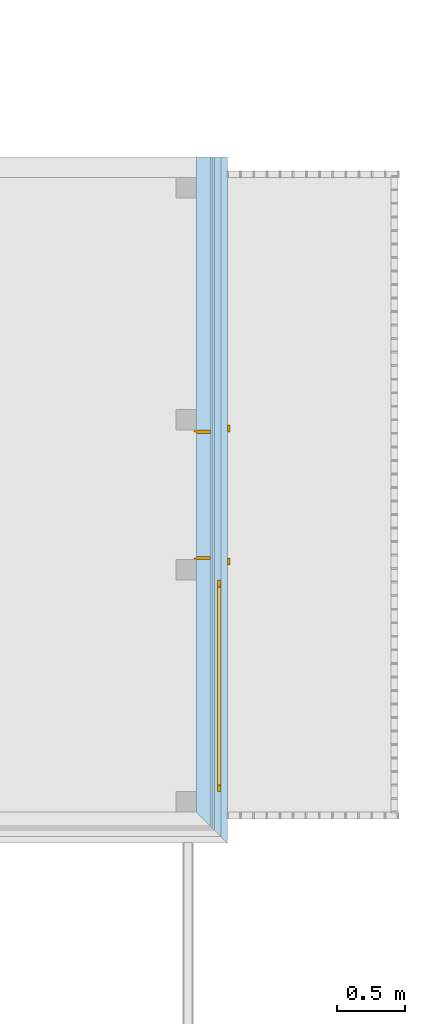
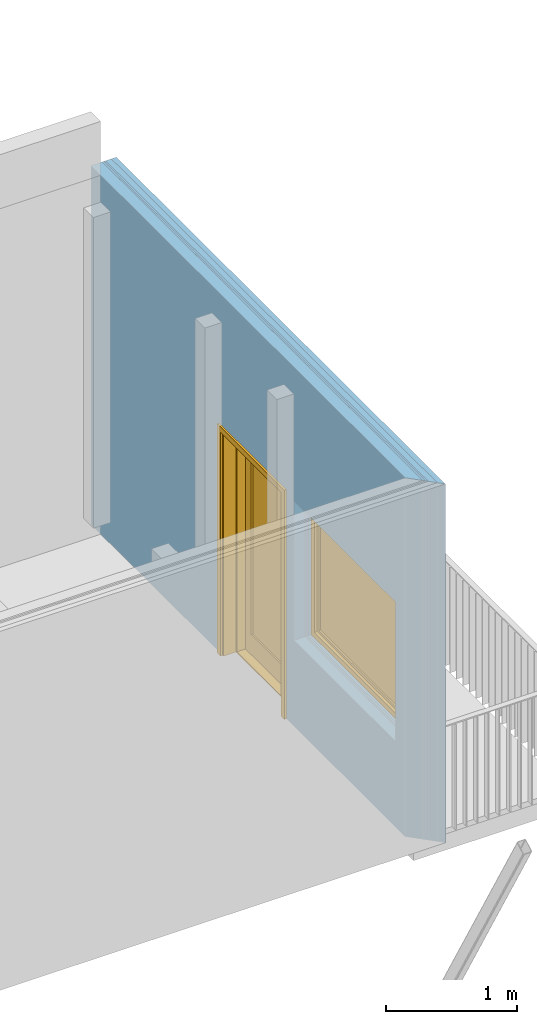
# One storey, part 59 of 100: 1 door, 1 window, 2 openings, 1 element without a shape of its own, plus 5 elements that do not belong to this part.
"""IFC2X3 building model written with IfcOpenShell, lengths in millimetres."""

from ifc_helpers import new_model, entity, si_unit, converted_unit, derived_unit, money_unit, direction, frame, origin_with_axes, origin_2d_with_axis, place, context, subcontext, project, spatial, polyline, rectangle, outline, extrude, open_shell, faceted_brep, surface_model, material, type_object, element, fill, aggregate, save


model = new_model("IFC2X3")

# Units and contexts
model_context = context("Model", 3, precision=0.01, world=origin_with_axes(), true_north=direction((0.0, 1.0)))
body_context = subcontext(model_context, "Body", "Model", "MODEL_VIEW")
ifc_project = project(units=[si_unit("LENGTHUNIT", "METRE", prefix="MILLI"), si_unit("AREAUNIT", "SQUARE_METRE"), si_unit("VOLUMEUNIT", "CUBIC_METRE"), converted_unit("PLANEANGLEUNIT", "DEGREE", entity("IfcPlaneAngleMeasure", 0.0174532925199), si_unit("PLANEANGLEUNIT", "RADIAN"), dimensions=[0, 0, 0, 0, 0, 0, 0]), si_unit("SOLIDANGLEUNIT", "STERADIAN"), money_unit("EUR"), converted_unit("TIMEUNIT", "Year", entity("IfcTimeMeasure", 31556926.0), si_unit("TIMEUNIT", "SECOND"), dimensions=[0, 0, 1, 0, 0, 0, 0]), si_unit("MASSUNIT", "GRAM", prefix="KILO"), si_unit("THERMODYNAMICTEMPERATUREUNIT", "DEGREE_CELSIUS"), si_unit("LUMINOUSINTENSITYUNIT", "LUMEN"), si_unit("ENERGYUNIT", "JOULE", prefix="MEGA"), derived_unit("THERMALCONDUCTANCEUNIT", [(si_unit("POWERUNIT", "WATT"), 1), (si_unit("LENGTHUNIT", "METRE"), -1), (si_unit("THERMODYNAMICTEMPERATUREUNIT", "KELVIN"), -1)]), derived_unit("SPECIFICHEATCAPACITYUNIT", [(si_unit("ENERGYUNIT", "JOULE"), 1), (si_unit("MASSUNIT", "GRAM", prefix="KILO"), -1), (si_unit("THERMODYNAMICTEMPERATUREUNIT", "KELVIN"), -1)]), derived_unit("MASSDENSITYUNIT", [(si_unit("MASSUNIT", "GRAM", prefix="KILO"), 1), (si_unit("VOLUMEUNIT", "CUBIC_METRE"), -1)])], contexts=[model_context])

# Site, building, storey
site_placement = place(None, origin_with_axes())
site = spatial("IfcSite", under=ifc_project, at=site_placement, Name="Politse- ja Piirivalveameti ning Päästeameti ühishoone", CompositionType="ELEMENT")
building_placement = place(site_placement, origin_with_axes())
building = spatial("IfcBuilding", under=site, at=building_placement, Name="Politse- ja Piirivalveameti ning Päästeameti ühishoone", CompositionType="ELEMENT")
storey_placement = place(building_placement, frame((0.0, 0.0, 3800.0), z_axis=(0.0, 0.0, 1.0), x_axis=(1.0, 0.0, 0.0)))
storey = spatial("IfcBuildingStorey", under=building, at=storey_placement, Name="Teine korrus", CompositionType="ELEMENT", Elevation=3800.0)

# Window
window_style = type_object("IfcWindowStyle", Name="Window 23", ConstructionType="NOTDEFINED", OperationType="SINGLE_PANEL", ParameterTakesPrecedence=False, Sizeable=False)
wall_placement = place(storey_placement, frame((-8532.0, -75.0, -500.0), z_axis=(0.0, 0.0, 1.0), x_axis=(0.0, 1.0, 0.0)))
opening_1_placement = place(wall_placement, frame((925.0, 0.0, 799.999993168), z_axis=(0.0, 0.0, 1.0), x_axis=(1.0, 0.0, 0.0)))
window_placement = place(opening_1_placement, frame((775.0, 0.0, 0.0), z_axis=(0.0, 0.0, 1.0), x_axis=(-1.0, 0.0, 0.0)))
window = element("IfcWindow", 1, at=window_placement, inside=storey, type_object=window_style, Name="A-21", ObjectType="WINDOW", OverallHeight=1300.0, OverallWidth=1550.0, context=body_context, shape_type="SurfaceModel", body=[
    faceted_brep([(25.0, 202.0, 1250.0), (0.0, 202.0, 1250.0), (0.0, 152.0, 1250.0), (50.0, 152.0, 1250.0), (50.0, 177.0, 1250.0), (25.0, 177.0, 1250.0), (25.0, 202.0, 50.0), (0.0, 202.0, 50.0), (0.0, 152.0, 50.0), (50.0, 152.0, 50.0), (50.0, 177.0, 50.0), (25.0, 177.0, 50.0)], [[[0, 1, 2, 3, 4, 5]], [[6, 7, 1, 0]], [[1, 7, 8, 2]], [[2, 8, 9, 3]], [[4, 3, 9, 10]], [[10, 11, 5, 4]], [[5, 11, 6, 0]], [[11, 10, 9, 8, 7, 6]]]),
    faceted_brep([(1500.0, 177.0, 1250.0), (1500.0, 152.0, 1250.0), (1550.0, 152.0, 1250.0), (1550.0, 202.0, 1250.0), (1525.0, 202.0, 1250.0), (1525.0, 177.0, 1250.0), (1500.0, 177.0, 50.0), (1500.0, 152.0, 50.0), (1550.0, 152.0, 50.0), (1550.0, 202.0, 50.0), (1525.0, 202.0, 50.0), (1525.0, 177.0, 50.0)], [[[0, 1, 2, 3, 4, 5]], [[6, 7, 1, 0]], [[8, 2, 1, 7]], [[9, 3, 2, 8]], [[4, 3, 9, 10]], [[10, 11, 5, 4]], [[5, 11, 6, 0]], [[11, 10, 9, 8, 7, 6]]]),
    faceted_brep([(1500.0, 177.0, 50.0), (1500.0, 152.0, 50.0), (1550.0, 152.0, 50.0), (1550.0, 202.0, 50.0), (1525.0, 202.0, 50.0), (1525.0, 177.0, 50.0), (50.0, 177.0, 50.0), (50.0, 152.0, 50.0), (0.0, 152.0, 50.0), (0.0, 152.0, 0.0), (1550.0, 152.0, 0.0), (1550.0, 202.0, 0.0), (25.0, 202.0, 25.0), (1525.0, 202.0, 25.0), (0.0, 202.0, 0.0), (0.0, 202.0, 50.0), (25.0, 202.0, 50.0), (1525.0, 177.0, 25.0), (25.0, 177.0, 25.0), (25.0, 177.0, 50.0)], [[[0, 1, 2, 3, 4, 5]], [[6, 7, 1, 0]], [[8, 9, 10, 2, 1, 7]], [[11, 3, 2, 10]], [[12, 13, 4, 3, 11, 14, 15, 16]], [[13, 17, 5, 4]], [[5, 17, 18, 19, 6, 0]], [[19, 16, 15, 8, 7, 6]], [[15, 14, 9, 8]], [[14, 11, 10, 9]], [[12, 18, 17, 13]], [[19, 18, 12, 16]]]),
    faceted_brep([(25.0, 202.0, 1250.0), (0.0, 202.0, 1250.0), (0.0, 202.0, 1300.0), (1550.0, 202.0, 1300.0), (1550.0, 202.0, 1250.0), (1525.0, 202.0, 1250.0), (1525.0, 202.0, 1275.0), (25.0, 202.0, 1275.0), (25.0, 177.0, 1250.0), (50.0, 177.0, 1250.0), (50.0, 152.0, 1250.0), (0.0, 152.0, 1250.0), (0.0, 152.0, 1300.0), (1550.0, 152.0, 1300.0), (1550.0, 152.0, 1250.0), (1525.0, 177.0, 1250.0), (1500.0, 152.0, 1250.0), (1500.0, 177.0, 1250.0), (1525.0, 177.0, 1275.0), (25.0, 177.0, 1275.0)], [[[0, 1, 2, 3, 4, 5, 6, 7]], [[8, 9, 10, 11, 1, 0]], [[2, 1, 11, 12]], [[3, 2, 12, 13]], [[4, 3, 13, 14]], [[15, 5, 4, 14, 16, 17]], [[5, 15, 18, 6]], [[6, 18, 19, 7]], [[7, 19, 8, 0]], [[17, 9, 8, 19, 18, 15]], [[17, 16, 10, 9]], [[14, 13, 12, 11, 10, 16]]]),
    faceted_brep([(75.0, 177.0, 1225.0), (75.0, 227.0, 1225.0), (25.0, 227.0, 1225.0), (25.0, 177.0, 1225.0), (75.0, 177.0, 75.0), (75.0, 227.0, 75.0), (25.0, 227.0, 75.0), (25.0, 177.0, 75.0)], [[[0, 1, 2, 3]], [[4, 5, 1, 0]], [[1, 5, 6, 2]], [[3, 2, 6, 7]], [[0, 3, 7, 4]], [[7, 6, 5, 4]]]),
    faceted_brep([(1475.0, 177.0, 75.0), (1475.0, 227.0, 75.0), (1525.0, 227.0, 75.0), (1525.0, 177.0, 75.0), (1475.0, 177.0, 1225.0), (1475.0, 227.0, 1225.0), (1525.0, 227.0, 1225.0), (1525.0, 177.0, 1225.0)], [[[0, 1, 2, 3]], [[4, 5, 1, 0]], [[1, 5, 6, 2]], [[3, 2, 6, 7]], [[0, 3, 7, 4]], [[7, 6, 5, 4]]]),
    faceted_brep([(1525.0, 177.0, 25.0), (1525.0, 227.0, 25.0), (1525.0, 227.0, 75.0), (1525.0, 177.0, 75.0), (25.0, 177.0, 25.0), (25.0, 227.0, 25.0), (25.0, 227.0, 75.0), (75.0, 227.0, 75.0), (1475.0, 227.0, 75.0), (1475.0, 177.0, 75.0), (75.0, 177.0, 75.0), (25.0, 177.0, 75.0)], [[[0, 1, 2, 3]], [[4, 5, 1, 0]], [[1, 5, 6, 7, 8, 2]], [[3, 2, 8, 9]], [[0, 3, 9, 10, 11, 4]], [[11, 6, 5, 4]], [[10, 7, 6, 11]], [[9, 8, 7, 10]]]),
    faceted_brep([(25.0, 177.0, 1275.0), (25.0, 227.0, 1275.0), (25.0, 227.0, 1225.0), (25.0, 177.0, 1225.0), (1525.0, 177.0, 1275.0), (1525.0, 227.0, 1275.0), (1525.0, 227.0, 1225.0), (1475.0, 227.0, 1225.0), (75.0, 227.0, 1225.0), (75.0, 177.0, 1225.0), (1475.0, 177.0, 1225.0), (1525.0, 177.0, 1225.0)], [[[0, 1, 2, 3]], [[4, 5, 1, 0]], [[1, 5, 6, 7, 8, 2]], [[3, 2, 8, 9]], [[0, 3, 9, 10, 11, 4]], [[11, 6, 5, 4]], [[10, 7, 6, 11]], [[9, 8, 7, 10]]]),
    surface_model("IfcShellBasedSurfaceModel", [(75.0, 192.0, 75.0), (1475.0, 192.0, 75.0), (1475.0, 192.0, 1225.0), (75.0, 192.0, 1225.0)], [open_shell([[[0, 1, 2, 3]]])]),
    surface_model("IfcShellBasedSurfaceModel", [(75.0, 212.0, 75.0), (75.0, 212.0, 1225.0), (1475.0, 212.0, 1225.0), (1475.0, 212.0, 75.0)], [open_shell([[[0, 1, 2, 3]]])]),
])

# Door
door_style = type_object("IfcDoorStyle", Name="Door 23", ConstructionType="NOTDEFINED", OperationType="SINGLE_SWING_LEFT", ParameterTakesPrecedence=False, Sizeable=False)
opening_2_placement = place(wall_placement, frame((2325.11493577, 0.0, 0.0), z_axis=(0.0, 0.0, 1.0), x_axis=(1.0, 0.0, 0.0)))
door_placement = place(opening_2_placement, frame((475.0, 0.0, 0.0), z_axis=(0.0, 0.0, 1.0), x_axis=(-1.0, 0.0, 0.0)))
door = element("IfcDoor", 2, at=door_placement, inside=storey, type_object=door_style, Name="VU-22", ObjectType="DOOR", OverallHeight=2100.0, OverallWidth=950.0, context=body_context, shape_type="SurfaceModel", body=[
    faceted_brep([(28.0, 185.0, 0.0), (40.0, 185.0, 0.0), (40.0, 185.0, 12.0), (28.0, 185.0, 12.0), (922.0, 185.0, 0.0), (910.0, 185.0, 0.0), (910.0, 110.0, 0.0), (40.0, 110.0, 0.0), (40.0, 110.0, 12.0), (910.0, 110.0, 12.0), (910.0, 185.0, 12.0), (922.0, 185.0, 12.0)], [[[0, 1, 2, 3]], [[0, 4, 5, 6, 7, 1]], [[1, 7, 8, 2]], [[3, 2, 8, 9, 10, 11]], [[4, 0, 3, 11]], [[5, 4, 11, 10]], [[6, 5, 10, 9]], [[7, 6, 9, 8]]]),
    faceted_brep([(950.0, 110.0, 0.0), (950.0, 0.0, 0.0), (925.0, 0.0, 0.0), (925.0, 110.0, 0.0), (950.0, 110.0, 2100.0), (950.0, 0.0, 2100.0), (925.0, 0.0, 2075.0), (925.0, 110.0, 2075.0)], [[[0, 1, 2, 3]], [[4, 5, 1, 0]], [[1, 5, 6, 2]], [[3, 2, 6, 7]], [[0, 3, 7, 4]], [[7, 6, 5, 4]]]),
    faceted_brep([(0.0, 110.0, 2100.0), (0.0, 0.0, 2100.0), (25.0, 0.0, 2075.0), (25.0, 110.0, 2075.0), (0.0, 110.0, 0.0), (0.0, 0.0, 0.0), (25.0, 0.0, 0.0), (25.0, 110.0, 0.0)], [[[0, 1, 2, 3]], [[4, 5, 1, 0]], [[1, 5, 6, 2]], [[3, 2, 6, 7]], [[0, 3, 7, 4]], [[7, 6, 5, 4]]]),
    faceted_brep([(925.0, 110.0, 2075.0), (925.0, 0.0, 2075.0), (25.0, 0.0, 2075.0), (25.0, 110.0, 2075.0), (950.0, 110.0, 2100.0), (950.0, 0.0, 2100.0), (0.0, 0.0, 2100.0), (0.0, 110.0, 2100.0)], [[[0, 1, 2, 3]], [[4, 5, 1, 0]], [[1, 5, 6, 2]], [[3, 2, 6, 7]], [[0, 3, 7, 4]], [[7, 6, 5, 4]]]),
    faceted_brep([(987.0, -19.0, 0.0), (937.0, -19.0, 0.0), (937.0, 0.0, 0.0), (987.0, 0.0, 0.0), (987.0, -19.0, 2137.0), (937.0, -19.0, 2087.0), (937.0, 0.0, 2087.0), (987.0, 0.0, 2137.0)], [[[0, 1, 2, 3]], [[0, 4, 5, 1]], [[1, 5, 6, 2]], [[3, 2, 6, 7]], [[4, 0, 3, 7]], [[5, 4, 7, 6]]]),
    faceted_brep([(-37.0, -19.0, 2137.0), (13.0, -19.0, 2087.0), (13.0, 0.0, 2087.0), (-37.0, 0.0, 2137.0), (-37.0, -19.0, 0.0), (13.0, -19.0, 0.0), (13.0, 0.0, 0.0), (-37.0, 0.0, 0.0)], [[[0, 1, 2, 3]], [[0, 4, 5, 1]], [[1, 5, 6, 2]], [[3, 2, 6, 7]], [[4, 0, 3, 7]], [[5, 4, 7, 6]]]),
    faceted_brep([(987.0, -19.0, 2137.0), (937.0, -19.0, 2087.0), (937.0, 0.0, 2087.0), (987.0, 0.0, 2137.0), (-37.0, -19.0, 2137.0), (13.0, -19.0, 2087.0), (13.0, 0.0, 2087.0), (-37.0, 0.0, 2137.0)], [[[0, 1, 2, 3]], [[0, 4, 5, 1]], [[1, 5, 6, 2]], [[3, 2, 6, 7]], [[4, 0, 3, 7]], [[5, 4, 7, 6]]]),
    faceted_brep([(987.0, 244.0, 0.0), (987.0, 225.0, 0.0), (937.0, 225.0, 0.0), (937.0, 244.0, 0.0), (987.0, 244.0, 2137.0), (987.0, 225.0, 2137.0), (937.0, 225.0, 2087.0), (937.0, 244.0, 2087.0)], [[[0, 1, 2, 3]], [[4, 5, 1, 0]], [[1, 5, 6, 2]], [[3, 2, 6, 7]], [[0, 3, 7, 4]], [[7, 6, 5, 4]]]),
    faceted_brep([(-37.0, 244.0, 2137.0), (-37.0, 225.0, 2137.0), (13.0, 225.0, 2087.0), (13.0, 244.0, 2087.0), (-37.0, 244.0, 0.0), (-37.0, 225.0, 0.0), (13.0, 225.0, 0.0), (13.0, 244.0, 0.0)], [[[0, 1, 2, 3]], [[4, 5, 1, 0]], [[1, 5, 6, 2]], [[3, 2, 6, 7]], [[0, 3, 7, 4]], [[7, 6, 5, 4]]]),
    faceted_brep([(987.0, 244.0, 2137.0), (987.0, 225.0, 2137.0), (937.0, 225.0, 2087.0), (937.0, 244.0, 2087.0), (-37.0, 244.0, 2137.0), (-37.0, 225.0, 2137.0), (13.0, 225.0, 2087.0), (13.0, 244.0, 2087.0)], [[[0, 1, 2, 3]], [[4, 5, 1, 0]], [[1, 5, 6, 2]], [[3, 2, 6, 7]], [[0, 3, 7, 4]], [[7, 6, 5, 4]]]),
    faceted_brep([(910.0, 185.0, 0.0), (910.0, 110.0, 0.0), (910.0, 110.0, 2060.0), (910.0, 185.0, 2060.0), (922.0, 185.0, 0.0), (922.0, 225.0, 0.0), (950.0, 225.0, 0.0), (950.0, 110.0, 0.0), (950.0, 110.0, 2060.0), (922.0, 185.0, 2060.0), (950.0, 225.0, 2060.0), (922.0, 225.0, 2060.0)], [[[0, 1, 2, 3]], [[4, 5, 6, 7, 1, 0]], [[1, 7, 8, 2]], [[9, 3, 2, 8, 10, 11]], [[9, 4, 0, 3]], [[11, 5, 4, 9]], [[11, 10, 6, 5]], [[6, 10, 8, 7]]]),
    faceted_brep([(28.0, 185.0, 2060.0), (28.0, 225.0, 2060.0), (0.0, 225.0, 2060.0), (0.0, 110.0, 2060.0), (40.0, 110.0, 2060.0), (40.0, 185.0, 2060.0), (28.0, 185.0, 0.0), (28.0, 225.0, 0.0), (0.0, 225.0, 0.0), (0.0, 110.0, 0.0), (40.0, 110.0, 0.0), (40.0, 185.0, 0.0)], [[[0, 1, 2, 3, 4, 5]], [[0, 6, 7, 1]], [[7, 8, 2, 1]], [[2, 8, 9, 3]], [[3, 9, 10, 4]], [[5, 4, 10, 11]], [[5, 11, 6, 0]], [[6, 11, 10, 9, 8, 7]]]),
    faceted_brep([(922.0, 225.0, 2072.0), (28.0, 225.0, 2072.0), (28.0, 225.0, 2060.0), (0.0, 225.0, 2060.0), (0.0, 225.0, 2100.0), (950.0, 225.0, 2100.0), (950.0, 225.0, 2060.0), (922.0, 225.0, 2060.0), (922.0, 185.0, 2072.0), (28.0, 185.0, 2072.0), (28.0, 185.0, 2060.0), (40.0, 185.0, 2060.0), (40.0, 110.0, 2060.0), (0.0, 110.0, 2060.0), (0.0, 110.0, 2100.0), (950.0, 110.0, 2100.0), (950.0, 110.0, 2060.0), (922.0, 185.0, 2060.0), (910.0, 110.0, 2060.0), (910.0, 185.0, 2060.0)], [[[0, 1, 2, 3, 4, 5, 6, 7]], [[0, 8, 9, 1]], [[1, 9, 10, 2]], [[10, 11, 12, 13, 3, 2]], [[4, 3, 13, 14]], [[5, 4, 14, 15]], [[6, 5, 15, 16]], [[17, 7, 6, 16, 18, 19]], [[7, 17, 8, 0]], [[10, 9, 8, 17, 19, 11]], [[19, 18, 12, 11]], [[12, 18, 16, 15, 14, 13]]]),
    faceted_brep([(28.0, 225.0, 200.0), (128.0, 225.0, 200.0), (128.0, 185.0, 200.0), (28.0, 185.0, 200.0), (28.0, 225.0, 1972.0), (128.0, 225.0, 1972.0), (128.0, 185.0, 1972.0), (28.0, 185.0, 1972.0)], [[[0, 1, 2, 3]], [[0, 4, 5, 1]], [[1, 5, 6, 2]], [[3, 2, 6, 7]], [[4, 0, 3, 7]], [[5, 4, 7, 6]]]),
    faceted_brep([(922.0, 225.0, 200.0), (922.0, 225.0, 1972.0), (922.0, 185.0, 1972.0), (922.0, 185.0, 200.0), (822.0, 225.0, 200.0), (822.0, 225.0, 1972.0), (822.0, 185.0, 1972.0), (822.0, 185.0, 200.0)], [[[0, 1, 2, 3]], [[0, 4, 5, 1]], [[1, 5, 6, 2]], [[3, 2, 6, 7]], [[4, 0, 3, 7]], [[5, 4, 7, 6]]]),
    faceted_brep([(28.0, 225.0, 0.0), (922.0, 225.0, 0.0), (922.0, 185.0, 0.0), (28.0, 185.0, 0.0), (28.0, 225.0, 200.0), (128.0, 225.0, 200.0), (822.0, 225.0, 200.0), (922.0, 225.0, 200.0), (922.0, 185.0, 200.0), (822.0, 185.0, 200.0), (128.0, 185.0, 200.0), (28.0, 185.0, 200.0)], [[[0, 1, 2, 3]], [[0, 4, 5, 6, 7, 1]], [[1, 7, 8, 2]], [[3, 2, 8, 9, 10, 11]], [[4, 0, 3, 11]], [[5, 4, 11, 10]], [[6, 5, 10, 9]], [[7, 6, 9, 8]]]),
    faceted_brep([(28.0, 225.0, 2072.0), (28.0, 225.0, 1972.0), (28.0, 185.0, 1972.0), (28.0, 185.0, 2072.0), (922.0, 225.0, 2072.0), (922.0, 225.0, 1972.0), (822.0, 225.0, 1972.0), (128.0, 225.0, 1972.0), (128.0, 185.0, 1972.0), (822.0, 185.0, 1972.0), (922.0, 185.0, 1972.0), (922.0, 185.0, 2072.0)], [[[0, 1, 2, 3]], [[0, 4, 5, 6, 7, 1]], [[1, 7, 8, 2]], [[3, 2, 8, 9, 10, 11]], [[4, 0, 3, 11]], [[5, 4, 11, 10]], [[6, 5, 10, 9]], [[7, 6, 9, 8]]]),
    surface_model("IfcShellBasedSurfaceModel", [(128.0, 211.0, 200.0), (128.0, 211.0, 1972.0), (822.0, 211.0, 1972.0), (822.0, 211.0, 200.0)], [open_shell([[[0, 1, 2, 3]]])]),
    surface_model("IfcShellBasedSurfaceModel", [(128.0, 199.0, 200.0), (822.0, 199.0, 200.0), (822.0, 199.0, 1972.0), (128.0, 199.0, 1972.0)], [open_shell([[[0, 1, 2, 3]]])]),
])

# Wall, opening
wall_type = type_object("IfcWallType", Name="VS-20_Välissein jarjutustorn 225", PredefinedType="NOTDEFINED")
wall = element("IfcWall", 3, at=wall_placement, inside=storey, type_object=wall_type, Name="VS-20")
opening_1 = element("IfcOpeningElement", 4, at=opening_1_placement, cuts=wall, Name="A-21", context=body_context, shape_type="SweptSolid", body=[
    extrude(rectangle(XDim=1550.0, YDim=1300.0, at=origin_2d_with_axis()), frame((0.0, -202.0, 650.0), z_axis=(0.0, -1.0, 0.0), x_axis=(-1.0, 0.0, 0.0)), (0.0, 0.0, -1.0), 427.0),
    extrude(rectangle(XDim=1550.0, YDim=1300.0, at=origin_2d_with_axis()), frame((0.0, -202.0, 650.0), z_axis=(0.0, 1.0, 0.0), x_axis=(-1.0, 0.0, 0.0)), (0.0, 0.0, -1.0), 248.0),
])

fill(opening_1, window)

# Opening
opening_2 = element("IfcOpeningElement", 5, at=opening_2_placement, cuts=wall, Name="VU-22", context=body_context, shape_type="SweptSolid", body=[
    extrude(rectangle(XDim=950.0, YDim=2100.0, at=origin_2d_with_axis()), frame((0.0, 225.0, 1050.0), z_axis=(0.0, 1.0, 0.0), x_axis=(1.0, 0.0, 0.0)), (0.0, 0.0, -1.0), 675.0),
    extrude(rectangle(XDim=1024.0, YDim=2137.0, at=origin_2d_with_axis()), frame((0.0, 0.0, 1068.5), z_axis=(0.0, 1.0, 0.0), x_axis=(1.0, 0.0, 0.0)), (0.0, 0.0, 1.0), 225.0),
    extrude(rectangle(XDim=1024.0, YDim=2137.0, at=origin_2d_with_axis()), frame((0.0, -225.0, 1068.5), z_axis=(0.0, -1.0, 0.0), x_axis=(1.0, 0.0, 0.0)), (0.0, 0.0, 1.0), 225.0),
])

fill(opening_2, door)

# Building element part
ifc_material_1 = material(Name="Õhkvahe - Raam")
building_element_part_1_placement = place(wall_placement, origin_with_axes())
building_element_part_1 = element("IfcBuildingElementPart", 6, at=building_element_part_1_placement, material=ifc_material_1, Name="Õhkvahe - Raam", context=body_context, shape_type="SweptSolid", body=[
    extrude(outline(polyline([(-100.0, -100.0), (4800.4616888, -100.0), (4800.4616888, 0.0), (0.0, 0.0), (-100.0, -100.0)])), origin_with_axes(), (0.0, 0.0, 1.0), 3347.0),
])

ifc_material_2 = material(Name="SKR-05_Vineer")
building_element_part_2_placement = place(wall_placement, origin_with_axes())
building_element_part_2 = element("IfcBuildingElementPart", 7, at=building_element_part_2_placement, material=ifc_material_2, Name="SKR-05_Vineer", context=body_context, shape_type="SweptSolid", body=[
    extrude(outline(polyline([(-115.0, -115.0), (4800.4616888, -115.0), (4800.4616888, -100.0), (-100.0, -100.0), (-115.0, -115.0)])), origin_with_axes(), (0.0, 0.0, 1.0), 3347.0),
])

ifc_material_3 = material(Name="SKR-01_Õhkvahe - Raam")
building_element_part_3_placement = place(wall_placement, origin_with_axes())
building_element_part_3 = element("IfcBuildingElementPart", 8, at=building_element_part_3_placement, material=ifc_material_3, Name="SKR-01_Õhkvahe - Raam", context=body_context, shape_type="SweptSolid", body=[
    extrude(outline(polyline([(-130.0, -130.0), (4800.4616888, -130.0), (4800.4616888, -115.0), (-115.0, -115.0), (-130.0, -130.0)])), origin_with_axes(), (0.0, 0.0, 1.0), 3347.0),
])

building_element_part_4_placement = place(wall_placement, origin_with_axes())
building_element_part_4 = element("IfcBuildingElementPart", 9, at=building_element_part_4_placement, material=ifc_material_3, Name="SKR-01_Õhkvahe - Raam", context=body_context, shape_type="SweptSolid", body=[
    extrude(outline(polyline([(-180.0, -180.0), (4800.4616888, -180.0), (4800.4616888, -130.0), (-130.0, -130.0), (-180.0, -180.0)])), origin_with_axes(), (0.0, 0.0, 1.0), 3347.0),
])

ifc_material_4 = material(Name="SKR-04_Puitplaat")
building_element_part_5_placement = place(wall_placement, origin_with_axes())
building_element_part_5 = element("IfcBuildingElementPart", 10, at=building_element_part_5_placement, material=ifc_material_4, Name="SKR-04_Puitplaat", context=body_context, shape_type="SweptSolid", body=[
    extrude(outline(polyline([(-225.0, -225.0), (4800.4616888, -225.0), (4800.4616888, -180.0), (-180.0, -180.0), (-225.0, -225.0)])), origin_with_axes(), (0.0, 0.0, 1.0), 3347.0),
])

aggregate(wall, [building_element_part_1, building_element_part_2, building_element_part_3, building_element_part_4, building_element_part_5])

save(model, "model.ifc")
